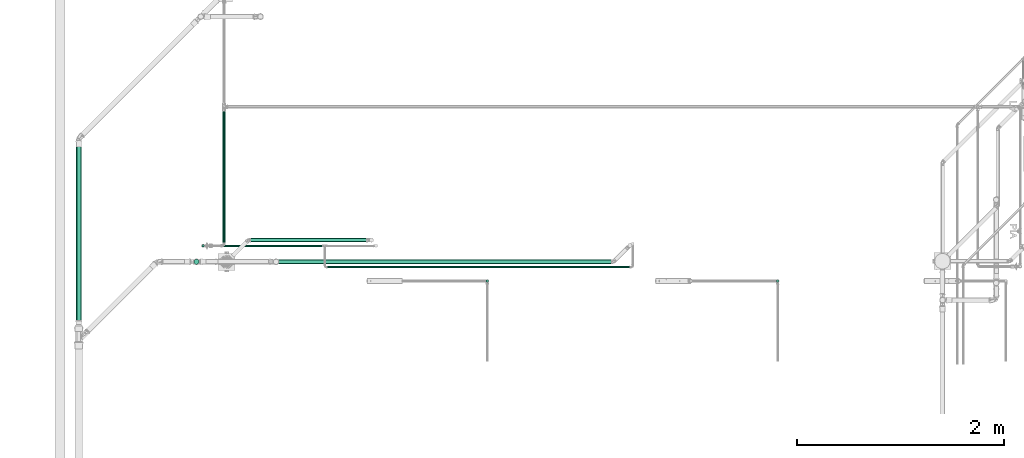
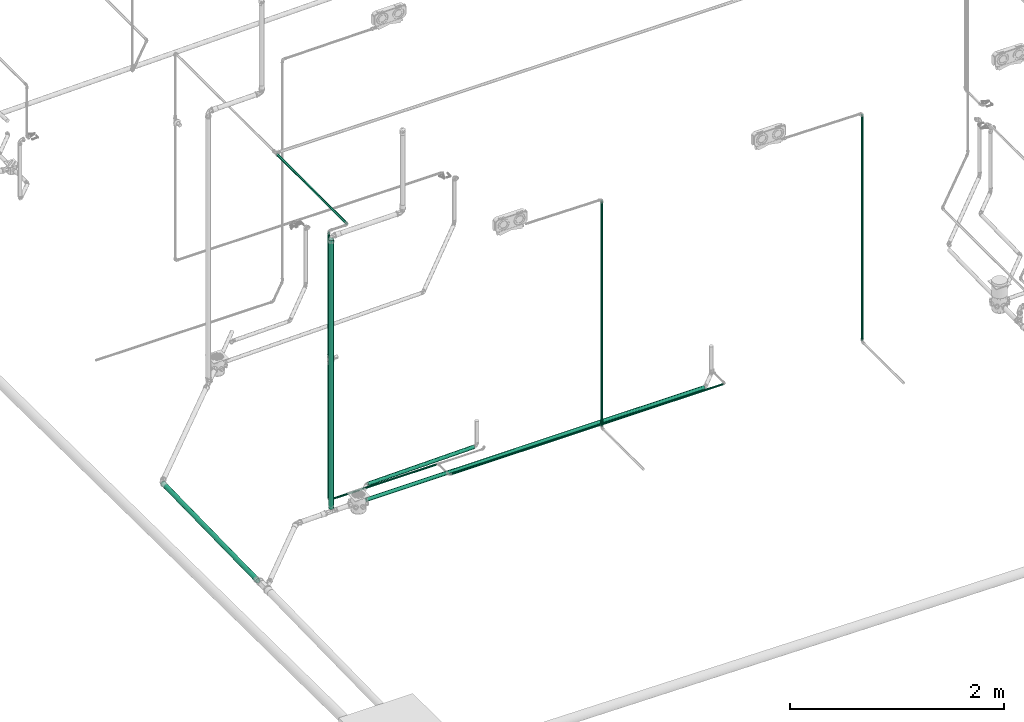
# One storey, part 2 of 589: 11 flow segments.
"""IFC2X3 building model written with IfcOpenShell, lengths in millimetres."""

import ifcopenshell
import ifcopenshell.guid

model = None  # the IFC model being written
_history = None  # IfcOwnerHistory: only IFC2X3 demands one
_inside = {}  # id of a spatial element -> (the spatial element, [elements in it])
_under = {}  # id of a project, library or spatial element -> (it, [spatial elements below it])
_declared = {}  # id of a project -> (the project, [libraries it declares])
_typed = {}  # id of a type object -> (the type object, [elements of that type])
_made_of = {}  # id of a material, layer set ... -> (it, [elements and type objects made of it])


def new_model(schema):
    """Start an empty IFC model of exactly this schema.

    Asked for "IFC4X3", IfcOpenShell would pick the latest addendum, in which some entities
    have other attributes; the version numbers below select the first issue.
    IFC2X3 requires an IfcOwnerHistory on every rooted entity: one is made here for all.
    """
    global model, _history
    if schema == "IFC4X3":
        model = ifcopenshell.file(schema_version=(4, 3, 0, 0))
    else:
        model = ifcopenshell.file(schema=schema)
    _inside.clear()
    _under.clear()
    _declared.clear()
    _typed.clear()
    _made_of.clear()
    _history = None
    if model.schema == "IFC2X3":
        org = make("IfcOrganization", Name="unknown")
        user = make(
            "IfcPersonAndOrganization",
            ThePerson=make("IfcPerson", FamilyName="unknown"),
            TheOrganization=org,
        )
        app = make(
            "IfcApplication",
            ApplicationDeveloper=org,
            Version="unknown",
            ApplicationFullName="unknown",
            ApplicationIdentifier="unknown",
        )
        _history = make(
            "IfcOwnerHistory",
            OwningUser=user,
            OwningApplication=app,
            ChangeAction="ADDED",
            CreationDate=0,
        )
    return model


def make(cls, **values):
    """One entity of the class cls with the attributes given. An attribute that is None is left unset."""
    return model.create_entity(
        cls, **{name: value for name, value in values.items() if value is not None}
    )


def entity(cls, *values):
    """Any entity or typed value of the class cls, its attributes in the order of the schema. None: left unset."""
    e = model.create_entity(cls)
    for i, value in enumerate(values):
        if value is not None:
            e[i] = value
    return e


def rooted(cls, **values):
    """An entity with a GlobalId (a new one), such as an element, a storey or a relation."""
    return make(cls, GlobalId=ifcopenshell.guid.new(), OwnerHistory=_history, **values)


def si_unit(unit_type, name, prefix=None):
    """IfcSIUnit, for example si_unit("LENGTHUNIT", "METRE", prefix="MILLI")."""
    return make("IfcSIUnit", UnitType=unit_type, Prefix=prefix, Name=name)


def converted_unit(unit_type, name, factor, base, dimensions=None, offset=None):
    """IfcConversionBasedUnit, such as the inch: factor (a typed value) times the base unit."""
    return make(
        "IfcConversionBasedUnit"
        if offset is None
        else "IfcConversionBasedUnitWithOffset",
        ConversionOffset=offset,
        Dimensions=None
        if dimensions is None
        else entity("IfcDimensionalExponents", *dimensions),
        UnitType=unit_type,
        Name=name,
        ConversionFactor=make(
            "IfcMeasureWithUnit", ValueComponent=factor, UnitComponent=base
        ),
    )


def derived_unit(unit_type, elements):
    """IfcDerivedUnit: a product of units, each with its exponent."""
    return make(
        "IfcDerivedUnit",
        Elements=[
            make("IfcDerivedUnitElement", Unit=unit, Exponent=power)
            for unit, power in elements
        ],
        UnitType=unit_type,
    )


def assignment(units):
    """IfcUnitAssignment: the units of a project."""
    return None if units is None else make("IfcUnitAssignment", Units=units)


def point(xyz):
    """IfcCartesianPoint."""
    return None if xyz is None else make("IfcCartesianPoint", Coordinates=xyz)


def direction(xyz):
    """IfcDirection."""
    return None if xyz is None else make("IfcDirection", DirectionRatios=xyz)


def frame(location, z_axis=None, x_axis=None):
    """IfcAxis2Placement3D, a coordinate frame: its origin and axes. An axis left out is left unset."""
    return make(
        "IfcAxis2Placement3D",
        Location=point(location),
        Axis=direction(z_axis),
        RefDirection=direction(x_axis),
    )


def frame_2d(location, x_axis=None):
    """IfcAxis2Placement2D, a coordinate frame in the plane: its origin and x axis."""
    return make(
        "IfcAxis2Placement2D", Location=point(location), RefDirection=direction(x_axis)
    )


def origin():
    """The frame at (0, 0, 0) with its axes left unset."""
    return frame((0.0, 0.0, 0.0))


def origin_2d_with_axis():
    """The frame at (0, 0) in the plane with the x axis (1, 0) written out."""
    return frame_2d((0.0, 0.0), x_axis=(1.0, 0.0))


def place(relative_to, where):
    """IfcLocalPlacement: puts the frame where relative to a parent placement (None: the world)."""
    return make(
        "IfcLocalPlacement", PlacementRelTo=relative_to, RelativePlacement=where
    )


def context(
    kind, dimensions, precision=None, world=None, true_north=None, identifier=None
):
    """IfcGeometricRepresentationContext, for example the 3D "Model" context."""
    return make(
        "IfcGeometricRepresentationContext",
        ContextIdentifier=identifier,
        ContextType=kind,
        CoordinateSpaceDimension=dimensions,
        Precision=precision,
        WorldCoordinateSystem=world,
        TrueNorth=true_north,
    )


def subcontext(parent, identifier, kind, view, scale=None):
    """IfcGeometricRepresentationSubContext, for example "Body" below "Model"."""
    return make(
        "IfcGeometricRepresentationSubContext",
        ContextIdentifier=identifier,
        ContextType=kind,
        ParentContext=parent,
        TargetScale=scale,
        TargetView=view,
    )


def project(units=None, contexts=None):
    """IfcProject with its units and contexts."""
    return rooted(
        "IfcProject",
        Name="project",
        RepresentationContexts=contexts,
        UnitsInContext=assignment(units),
    )


def spatial(cls, under=None, at=None, **own):
    """A site, building, storey or space (cls), placed at a placement, below another one or the project."""
    s = rooted(cls, ObjectPlacement=at, **own)
    if under is not None:
        _under.setdefault(under.id(), (under, []))[1].append(s)
    return s


def profile(cls, at=None, kind="AREA", **sizes):
    """A parametric profile (cls). Its sizes go by their IFC names, for example OverallWidth=200.0."""
    return make(cls, ProfileType=kind, Position=at, **sizes)


def circle(**sizes):
    """IfcCircleProfileDef."""
    return profile("IfcCircleProfileDef", **sizes)


def extrude(swept, where, along, depth):
    """IfcExtrudedAreaSolid: the profile swept, set in the frame where, extruded along a direction by depth."""
    return make(
        "IfcExtrudedAreaSolid",
        SweptArea=swept,
        Position=where,
        ExtrudedDirection=direction(along),
        Depth=depth,
    )


def shape(context_of_items, identifier, shape_type, items):
    """IfcShapeRepresentation: the items that make up one representation, for example the "Body"."""
    return make(
        "IfcShapeRepresentation",
        ContextOfItems=context_of_items,
        RepresentationIdentifier=identifier,
        RepresentationType=shape_type,
        Items=items,
    )


def made_of(thing, what):
    """Note that an element or type object is made of a material, layer set ...; save() writes the relation."""
    if what is not None:
        _made_of.setdefault(what.id(), (what, []))[1].append(thing)
    return thing


def type_object(cls, material=None, **own):
    """A type object (cls), such as IfcWallType, which elements share."""
    return made_of(rooted(cls, **own), material)


def element(
    cls,
    number,
    at=None,
    inside=None,
    cuts=None,
    type_object=None,
    material=None,
    context=None,
    identifier="Body",
    shape_type=None,
    held_by="IfcProductDefinitionShape",
    body=None,
    shapes=None,
    **own,
):
    """One element of the class cls, such as IfcWall. Its Tag is "e" and its number.

    at: its placement. inside: the storey or other place that contains it. cuts: it is an
    opening in that element (IfcRelVoidsElement). A single representation is given by context,
    identifier, shape_type and body (its items); several are given by shapes. held_by: the class
    of the entity that holds the representations. save() writes the other relations.
    """
    e = rooted(cls, Tag="e%d" % number, ObjectPlacement=at, **own)
    if body is not None:
        shapes = [shape(context, identifier, shape_type, body)]
    if shapes is not None:
        e.Representation = make(held_by, Representations=shapes)
    if inside is not None:
        _inside.setdefault(inside.id(), (inside, []))[1].append(e)
    if cuts is not None:
        rooted(
            "IfcRelVoidsElement", RelatingBuildingElement=cuts, RelatedOpeningElement=e
        )
    if type_object is not None:
        _typed.setdefault(type_object.id(), (type_object, []))[1].append(e)
    return made_of(e, material)


def aggregate(whole, parts):
    """IfcRelAggregates: a whole, such as a stair, and the parts it consists of."""
    return rooted("IfcRelAggregates", RelatingObject=whole, RelatedObjects=parts)


def save(model, path):
    """Write the relations noted so far, then the file.

    IfcRelAggregates (storeys below a building ...), IfcRelContainedInSpatialStructure (elements
    in a storey), IfcRelDefinesByType, IfcRelAssociatesMaterial and IfcRelDeclares: one each for
    every whole, place, type object, material and project.
    """
    for whole, parts in _under.values():
        aggregate(whole, parts)
    for where, things in _inside.values():
        rooted(
            "IfcRelContainedInSpatialStructure",
            RelatedElements=things,
            RelatingStructure=where,
        )
    for kind, things in _typed.values():
        rooted("IfcRelDefinesByType", RelatedObjects=things, RelatingType=kind)
    for what, things in _made_of.values():
        rooted("IfcRelAssociatesMaterial", RelatedObjects=things, RelatingMaterial=what)
    for by, libraries in _declared.values():
        rooted("IfcRelDeclares", RelatingContext=by, RelatedDefinitions=libraries)
    model.write(path)


model = new_model("IFC2X3")

# Units and contexts
model_context = context("Model", 3, precision=0.01, world=origin(), true_north=direction((6.123031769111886e-17, 1.0)))
body_context = subcontext(model_context, "Body", "Model", "MODEL_VIEW")
ifc_project = project(units=[si_unit("LENGTHUNIT", "METRE", prefix="MILLI"), si_unit("AREAUNIT", "SQUARE_METRE"), si_unit("VOLUMEUNIT", "CUBIC_METRE"), converted_unit("PLANEANGLEUNIT", "DEGREE", entity("IfcRatioMeasure", 0.017453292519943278), si_unit("PLANEANGLEUNIT", "RADIAN"), dimensions=[0, 0, 0, 0, 0, 0, 0]), si_unit("MASSUNIT", "GRAM", prefix="KILO"), derived_unit("MASSDENSITYUNIT", [(si_unit("MASSUNIT", "GRAM", prefix="KILO"), 1), (si_unit("LENGTHUNIT", "METRE"), -3)]), derived_unit("IONCONCENTRATIONUNIT", [(si_unit("MASSUNIT", "GRAM", prefix="KILO"), 1), (si_unit("LENGTHUNIT", "METRE"), -3)]), derived_unit("MOMENTOFINERTIAUNIT", [(si_unit("LENGTHUNIT", "METRE"), 4)]), si_unit("TIMEUNIT", "SECOND"), si_unit("FREQUENCYUNIT", "HERTZ"), si_unit("THERMODYNAMICTEMPERATUREUNIT", "DEGREE_CELSIUS"), derived_unit("THERMALTRANSMITTANCEUNIT", [(si_unit("MASSUNIT", "GRAM", prefix="KILO"), 1), (si_unit("THERMODYNAMICTEMPERATUREUNIT", "KELVIN"), -1), (si_unit("TIMEUNIT", "SECOND"), -3)]), derived_unit("THERMALCONDUCTANCEUNIT", [(si_unit("MASSUNIT", "GRAM", prefix="KILO"), 1), (si_unit("THERMODYNAMICTEMPERATUREUNIT", "KELVIN"), -1), (si_unit("TIMEUNIT", "SECOND"), -3), (si_unit("LENGTHUNIT", "METRE"), 1)]), derived_unit("VOLUMETRICFLOWRATEUNIT", [(si_unit("LENGTHUNIT", "METRE"), 3), (si_unit("TIMEUNIT", "SECOND"), -1)]), derived_unit("MASSFLOWRATEUNIT", [(si_unit("MASSUNIT", "GRAM", prefix="KILO"), 1), (si_unit("TIMEUNIT", "SECOND"), -1)]), derived_unit("ROTATIONALFREQUENCYUNIT", [(si_unit("TIMEUNIT", "SECOND"), -1)]), si_unit("ELECTRICCURRENTUNIT", "AMPERE"), si_unit("ELECTRICVOLTAGEUNIT", "VOLT"), si_unit("POWERUNIT", "WATT"), si_unit("FORCEUNIT", "NEWTON", prefix="KILO"), si_unit("ILLUMINANCEUNIT", "LUX"), si_unit("LUMINOUSFLUXUNIT", "LUMEN"), si_unit("LUMINOUSINTENSITYUNIT", "CANDELA"), derived_unit("USERDEFINED", [(si_unit("MASSUNIT", "GRAM", prefix="KILO"), -1), (si_unit("LENGTHUNIT", "METRE"), -2), (si_unit("TIMEUNIT", "SECOND"), 3), (si_unit("LUMINOUSFLUXUNIT", "LUMEN"), 1)]), derived_unit("USERDEFINED", [(si_unit("MASSUNIT", "GRAM", prefix="KILO"), 1), (si_unit("TIMEUNIT", "SECOND"), -3), (si_unit("LENGTHUNIT", "METRE"), 3), (si_unit("ELECTRICCURRENTUNIT", "AMPERE"), -2)]), derived_unit("SOUNDPOWERUNIT", [(si_unit("MASSUNIT", "GRAM", prefix="KILO"), 1), (si_unit("TIMEUNIT", "SECOND"), -3), (si_unit("LENGTHUNIT", "METRE"), 2)]), derived_unit("SOUNDPRESSUREUNIT", [(si_unit("MASSUNIT", "GRAM", prefix="KILO"), 1), (si_unit("LENGTHUNIT", "METRE"), -1), (si_unit("TIMEUNIT", "SECOND"), -2)]), derived_unit("LINEARVELOCITYUNIT", [(si_unit("LENGTHUNIT", "METRE"), 1), (si_unit("TIMEUNIT", "SECOND"), -1)]), si_unit("PRESSUREUNIT", "PASCAL"), derived_unit("USERDEFINED", [(si_unit("MASSUNIT", "GRAM", prefix="KILO"), 1), (si_unit("LENGTHUNIT", "METRE"), -2), (si_unit("TIMEUNIT", "SECOND"), -2)]), derived_unit("LINEARFORCEUNIT", [(si_unit("MASSUNIT", "GRAM", prefix="KILO"), 1), (si_unit("TIMEUNIT", "SECOND"), -2)]), derived_unit("PLANARFORCEUNIT", [(si_unit("MASSUNIT", "GRAM", prefix="KILO"), 1), (si_unit("LENGTHUNIT", "METRE"), -1), (si_unit("TIMEUNIT", "SECOND"), -2)]), derived_unit("SPECIFICHEATCAPACITYUNIT", [(si_unit("THERMODYNAMICTEMPERATUREUNIT", "KELVIN"), -1), (si_unit("LENGTHUNIT", "METRE"), 2), (si_unit("TIMEUNIT", "SECOND"), -2)]), derived_unit("HEATINGVALUEUNIT", [(si_unit("LENGTHUNIT", "METRE"), 2), (si_unit("TIMEUNIT", "SECOND"), -2)]), derived_unit("VAPORPERMEABILITYUNIT", [(si_unit("LENGTHUNIT", "METRE"), -1), (si_unit("TIMEUNIT", "SECOND"), 1)]), derived_unit("DYNAMICVISCOSITYUNIT", [(si_unit("MASSUNIT", "GRAM", prefix="KILO"), 1), (si_unit("TIMEUNIT", "SECOND"), -1), (si_unit("LENGTHUNIT", "METRE"), -1)]), derived_unit("THERMALEXPANSIONCOEFFICIENTUNIT", [(si_unit("THERMODYNAMICTEMPERATUREUNIT", "KELVIN"), -1)]), derived_unit("MODULUSOFELASTICITYUNIT", [(si_unit("MASSUNIT", "GRAM", prefix="KILO"), 1), (si_unit("LENGTHUNIT", "METRE"), -1), (si_unit("TIMEUNIT", "SECOND"), -2)]), derived_unit("ISOTHERMALMOISTURECAPACITYUNIT", [(si_unit("LENGTHUNIT", "METRE"), 3), (si_unit("MASSUNIT", "GRAM", prefix="KILO"), -1)]), derived_unit("MOISTUREDIFFUSIVITYUNIT", [(si_unit("TIMEUNIT", "SECOND"), -1), (si_unit("LENGTHUNIT", "METRE"), 2)])], contexts=[model_context])

# Site, building, storey
site_placement = place(None, origin())
site = spatial("IfcSite", under=ifc_project, at=site_placement, Name="Default", CompositionType="ELEMENT")
building_placement = place(site_placement, origin())
building = spatial("IfcBuilding", under=site, at=building_placement, CompositionType="ELEMENT")
storey_placement = place(building_placement, frame((0.0, 0.0, 100.0)))
storey = spatial("IfcBuildingStorey", under=building, at=storey_placement, Name="TÉRREO", CompositionType="ELEMENT", Elevation=100.0)

# Flow segments
pipe_segment_type_1 = type_object("IfcPipeSegmentType", Name="Tipos de tubos:PVC Esgoto Série Normal", PredefinedType="NOTDEFINED")
flow_segment_1_placement = place(storey_placement, origin())
element("IfcFlowSegment", 1, at=flow_segment_1_placement, inside=storey, type_object=pipe_segment_type_1, Name="Tipos de tubos:PVC Esgoto Série Normal", ObjectType="Tipos de tubos:PVC Esgoto Série Normal", context=body_context, shape_type="SweptSolid", body=[
    extrude(circle(Radius=20.0, at=frame_2d((0.0, -1.9034756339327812e-14), x_axis=(1.0, 0.0))), frame((-7255.246092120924, -7702.352283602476, -117.35270689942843), z_axis=(0.999999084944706, 0.0, 0.0013528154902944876), x_axis=(0.0, -1.0, 0.0)), (0.0, 0.0, 1.0), 3650.901899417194),
])
flow_segment_2_placement = place(storey_placement, origin())
element("IfcFlowSegment", 2, at=flow_segment_2_placement, inside=storey, type_object=pipe_segment_type_1, Name="Tipos de tubos:PVC Esgoto Série Normal", ObjectType="Tipos de tubos:PVC Esgoto Série Normal", context=body_context, shape_type="SweptSolid", body=[
    extrude(circle(Radius=20.0, at=frame_2d((0.0, -1.9030967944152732e-14), x_axis=(1.0, 0.0))), frame((-7114.84754945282, -7492.68162922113, -112.79044226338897), z_axis=(0.999800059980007, 0.0, 0.019996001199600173), x_axis=(0.0, -1.0, 0.0)), (0.0, 0.0, 1.0), 1146.849372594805),
])
flow_segment_3_placement = place(storey_placement, origin())
element("IfcFlowSegment", 3, at=flow_segment_3_placement, inside=storey, type_object=pipe_segment_type_1, Name="Tipos de tubos:PVC Esgoto Série Normal", ObjectType="Tipos de tubos:PVC Esgoto Série Normal", context=body_context, shape_type="SweptSolid", body=[
    extrude(circle(Radius=25.0, at=origin_2d_with_axis()), frame((-7628.327710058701, -7702.352283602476, -78.50059733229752), z_axis=(0.0, 0.0, 1.0), x_axis=(-1.0, 0.0, 0.0)), (0.0, 0.0, 1.0), 3068.878686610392),
])
flow_segment_4_placement = place(storey_placement, origin())
element("IfcFlowSegment", 4, at=flow_segment_4_placement, inside=storey, type_object=pipe_segment_type_1, Name="Tipos de tubos:PVC Esgoto Série Normal", ObjectType="Tipos de tubos:PVC Esgoto Série Normal", context=body_context, shape_type="SweptSolid", body=[
    extrude(circle(Radius=25.0, at=frame_2d((0.0, -2.5374623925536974e-14), x_axis=(1.0, 0.0))), frame((-8768.11696502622, -8306.432664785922, -145.85348337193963), z_axis=(0.0, 0.999800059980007, 0.01999600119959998), x_axis=(1.0, 0.0, 0.0)), (0.0, 0.0, 1.0), 1779.5252856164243),
])
pipe_segment_type_2 = type_object("IfcPipeSegmentType", Name="Tipos de tubos:PVC Marrom Soldável", PredefinedType="NOTDEFINED")
flow_segment_5_placement = place(storey_placement, origin())
element("IfcFlowSegment", 5, at=flow_segment_5_placement, inside=storey, type_object=pipe_segment_type_2, Name="Tipos de tubos:PVC Marrom Soldável", ObjectType="Tipos de tubos:PVC Marrom Soldável", context=body_context, shape_type="SweptSolid", body=[
    extrude(circle(Radius=12.5, at=frame_2d((0.0, -1.0828671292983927e-12), x_axis=(1.0, 0.0))), frame((-7564.895534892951, -7547.531283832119, -89.45493019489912)), (0.0, 0.0, 1.0), 1569.4549301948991),
])
flow_segment_6_placement = place(storey_placement, origin())
element("IfcFlowSegment", 6, at=flow_segment_6_placement, inside=storey, type_object=pipe_segment_type_2, Name="Tipos de tubos:PVC Marrom Soldável", ObjectType="Tipos de tubos:PVC Marrom Soldável", context=body_context, shape_type="SweptSolid", body=[
    extrude(circle(Radius=12.5, at=origin_2d_with_axis()), frame((-7564.895534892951, -7547.53128383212, 1520.0), z_axis=(0.0, 0.0, 1.0), x_axis=(-1.0, 0.0, 0.0)), (0.0, 0.0, 1.0), 1434.6000000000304),
])
flow_segment_7_placement = place(storey_placement, origin())
element("IfcFlowSegment", 7, at=flow_segment_7_placement, inside=storey, type_object=pipe_segment_type_2, Name="Tipos de tubos:PVC Marrom Soldável", ObjectType="Tipos de tubos:PVC Marrom Soldável", context=body_context, shape_type="SweptSolid", body=[
    extrude(circle(Radius=10.0, at=frame_2d((0.0, -1.0574874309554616e-14), x_axis=(1.0, 0.0))), frame((-7547.995534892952, -7547.53128383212, -104.85493019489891), z_axis=(1.0, 0.0, 0.0), x_axis=(0.0, -1.0, 0.0)), (0.0, 0.0, 1.0), 1145.8000000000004),
])
flow_segment_8_placement = place(storey_placement, origin())
element("IfcFlowSegment", 8, at=flow_segment_8_placement, inside=storey, type_object=pipe_segment_type_2, Name="Tipos de tubos:PVC Marrom Soldável", ObjectType="Tipos de tubos:PVC Marrom Soldável", context=body_context, shape_type="SweptSolid", body=[
    extrude(circle(Radius=10.0, at=frame_2d((0.0, -1.0574874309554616e-14), x_axis=(1.0, 0.0))), frame((-6374.6955348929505, -7753.615281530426, -104.85493019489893), z_axis=(1.0, 0.0, 0.0), x_axis=(0.0, -1.0, 0.0)), (0.0, 0.0, 1.0), 2954.599999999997),
])
flow_segment_9_placement = place(storey_placement, origin())
element("IfcFlowSegment", 9, at=flow_segment_9_placement, inside=storey, type_object=pipe_segment_type_2, Name="Tipos de tubos:PVC Marrom Soldável", ObjectType="Tipos de tubos:PVC Marrom Soldável", context=body_context, shape_type="SweptSolid", body=[
    extrude(circle(Radius=12.5, at=frame_2d((1.310237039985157e-18, 0.0), x_axis=(1.0, 0.0))), frame((-2004.8084386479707, -7887.861245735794, -21.954458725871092)), (0.0, 0.0, 1.0), 2576.2579932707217),
])
flow_segment_10_placement = place(storey_placement, origin())
element("IfcFlowSegment", 10, at=flow_segment_10_placement, inside=storey, type_object=pipe_segment_type_2, Name="Tipos de tubos:PVC Marrom Soldável", ObjectType="Tipos de tubos:PVC Marrom Soldável", context=body_context, shape_type="SweptSolid", body=[
    extrude(circle(Radius=12.5, at=frame_2d((3.930711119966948e-18, 0.0), x_axis=(1.0, 0.0))), frame((-4815.027036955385, -7887.861245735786, -21.95464435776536)), (0.0, 0.0, 1.0), 2576.449952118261),
])
flow_segment_11_placement = place(storey_placement, origin())
element("IfcFlowSegment", 11, at=flow_segment_11_placement, inside=storey, type_object=pipe_segment_type_2, Name="Tipos de tubos:PVC Marrom Soldável", ObjectType="Tipos de tubos:PVC Marrom Soldável", context=body_context, shape_type="SweptSolid", body=[
    extrude(circle(Radius=12.5, at=origin_2d_with_axis()), frame((-7362.272959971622, -7532.13128383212, 2970.0), z_axis=(0.0, 1.0, 0.0), x_axis=(-1.0, 0.0, 0.0)), (0.0, 0.0, 1.0), 1305.1055016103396),
])

save(model, "model.ifc")
